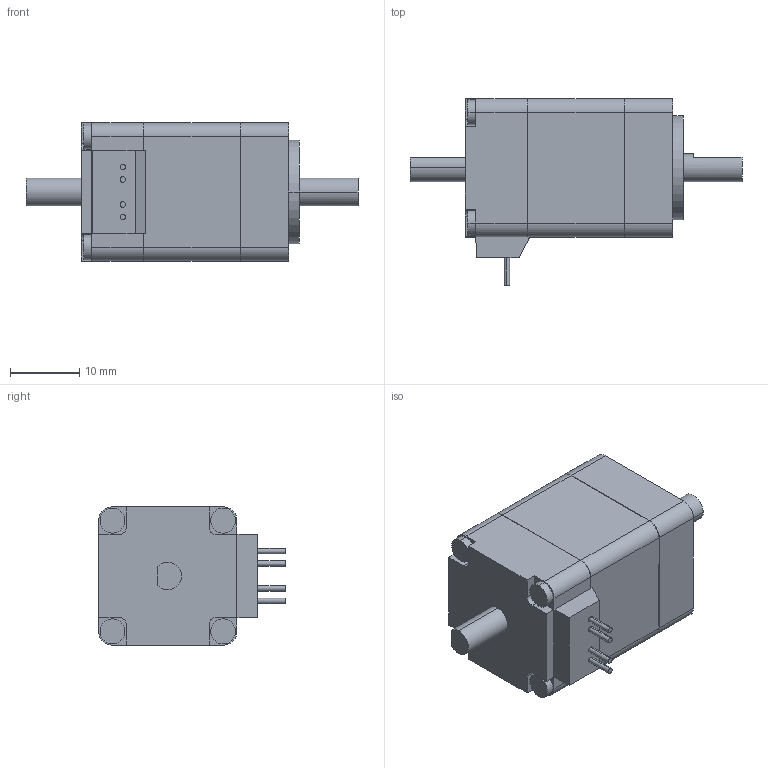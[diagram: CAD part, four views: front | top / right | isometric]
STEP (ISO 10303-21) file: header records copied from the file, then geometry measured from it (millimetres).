
FILE_DESCRIPTION( ( '' ), '1' );
FILE_NAME( 'Z:/14ＣＡＤ/01_CAD業務フォルダ/12_STEP書き出し/05_STEPファイル名の変更作業/02_ファイル名変換の作業場/03_ステッピングモーター/■手動で書き出し_10_PKP2/B976-B←PKP213D05B.stp', '2012-12-25T00:17:25', ( '' ), ( '' ), ' ', ' ', ' ' );
FILE_SCHEMA( ( 'CONFIG_CONTROL_DESIGN' ) );
Length unit declared in the file: millimetre
Products named in the file (1): 1
Bounding box: 48 x 27 x 20 mm (x, y, z)
Volume: 12546.5 mm3; surface area: 3629.8 mm2
Topology: 1 solids, 1 shells, 131 faces, 326 edges, 206 vertices
Faces by surface type: plane 60, cylinder 55, cone 16
Entity records: 3892 total; most frequent: DIRECTION 702, CARTESIAN_POINT 656, ORIENTED_EDGE 636, EDGE_CURVE 318, AXIS2_PLACEMENT_3D 252, VERTEX_POINT 206, LINE 198, VECTOR 198
